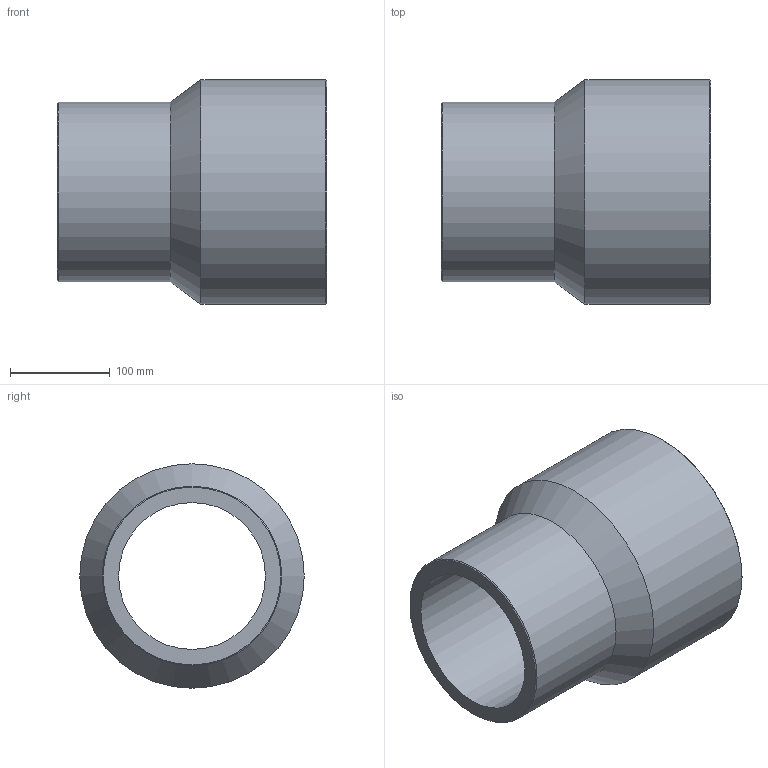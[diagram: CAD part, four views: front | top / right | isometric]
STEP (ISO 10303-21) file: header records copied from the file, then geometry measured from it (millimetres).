
FILE_DESCRIPTION(/* description */ ('Unknown'),/* implementation_level */ '2;1');
FILE_NAME(/* name */ 'RP225180C',/* time_stamp */ '2021-09-17T15:22:19+02:00',/* author */ ('Unknown'),/* organization */ ('Unknown'),/* preprocessor_version */ 'ST-DEVELOPER v16.7',/* originating_system */ 'Solid Edge',/* authorisation */ 'Unknown');
FILE_SCHEMA (('AUTOMOTIVE_DESIGN {1 0 10303 214 3 1 1}'));
Length unit declared in the file: millimetre
Products named in the file (1): RP225180C
Bounding box: 270 x 225 x 225 mm (x, y, z)
Volume: 3044420 mm3; surface area: 340612.5 mm2
Topology: 1 solids, 1 shells, 10 faces, 19 edges, 11 vertices
Faces by surface type: cylinder 4, cone 4, plane 2
Full cylindrical faces by diameter (mm): 147.2 x1, 180 x1, 184 x1, 225 x1
Entity records: 238 total; most frequent: DIRECTION 42, CARTESIAN_POINT 31, AXIS2_PLACEMENT_3D 21, ORIENTED_EDGE 20, EDGE_LOOP 20, FACE_BOUND 20, EDGE_CURVE 10, VERTEX_POINT 10
